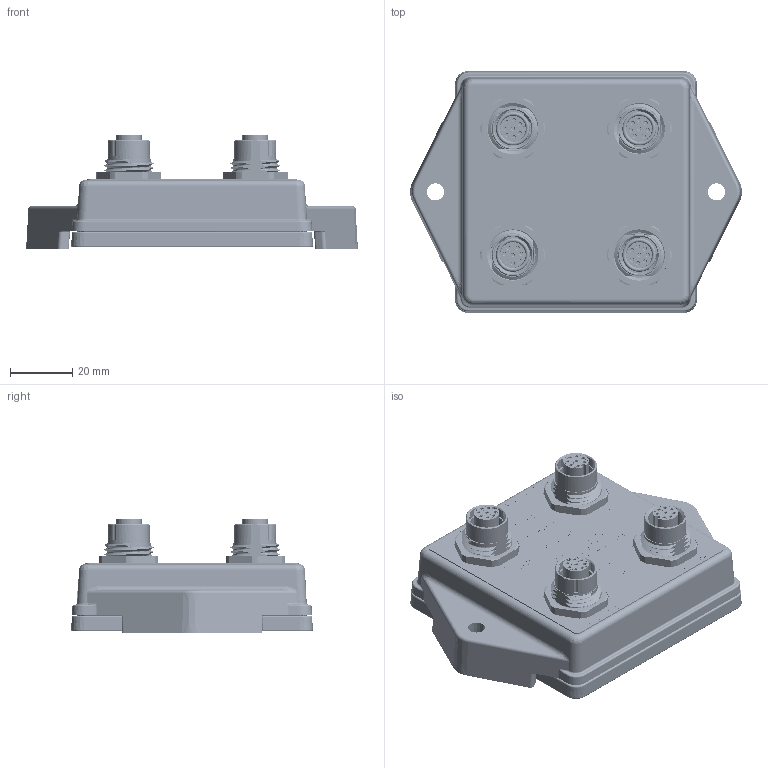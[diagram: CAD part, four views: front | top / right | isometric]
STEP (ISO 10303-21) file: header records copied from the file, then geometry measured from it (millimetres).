
FILE_DESCRIPTION (( 'STEP AP214' ), '1' );
FILE_NAME ('Generic STEP file.STEP', '2025-10-30T14:01:16', ( '' ), ( '' ), 'SwSTEP 2.0', 'SolidWorks 2023', '' );
FILE_SCHEMA (( 'AUTOMOTIVE_DESIGN' ));
Length unit declared in the file: inch
Products named in the file (14): Generic STEP file.STEP; LBM-SERIAL-01-R2.ipt.STEP; E-LOCTITE-E-30CL-50.ipt.STEP; 415371_GEW.ipt.STEP; PLP5-2-125.ipt.STEP; IJT-21004-02-R1 thicker.ipt.STEP; LBM-AX140720-01-R1.ipt.STEP; MG-22004-01.iam.STEP; PHO 1456543.ipt.STEP; FG-AX140720.iam.STEP; WACKER SILGEL 612AB.ipt.STEP; LBP-AX140720-01-R2.ipt.STEP; IJT-22004-01-R2.ipt.STEP; Generic STEP file
Assembly tree (24 placements, depth 5):
  Generic STEP file
    Generic STEP file.STEP
      FG-AX140720.iam.STEP
        MG-22004-01.iam.STEP
          PHO 1456543.ipt.STEP  x4
          415371_GEW.ipt.STEP  x4
          IJT-21004-02-R1 thicker.ipt.STEP
          LBM-SERIAL-01-R2.ipt.STEP  x2
          PLP5-2-125.ipt.STEP  x5
          E-LOCTITE-E-30CL-50.ipt.STEP
          IJT-22004-01-R2.ipt.STEP
          WACKER SILGEL 612AB.ipt.STEP
        LBP-AX140720-01-R2.ipt.STEP
        LBM-AX140720-01-R1.ipt.STEP
Bounding box: 106.85 x 77.71 x 36.42 mm (x, y, z)
Volume: 102517 mm3; surface area: 81423.5 mm2
Topology: 30 solids, 30 shells, 6280 faces, 16387 edges, 10636 vertices
Faces by surface type: plane 3070, cylinder 1332, bspline 1152, cone 340, torus 318, sphere 68
Entity records: 257334 total; most frequent: CARTESIAN_POINT 126626, ORIENTED_EDGE 21996, DIRECTION 16096, EDGE_CURVE 10998, VERTEX_POINT 7109, VECTOR 6684, LINE 6684, AXIS2_PLACEMENT_3D 4706
